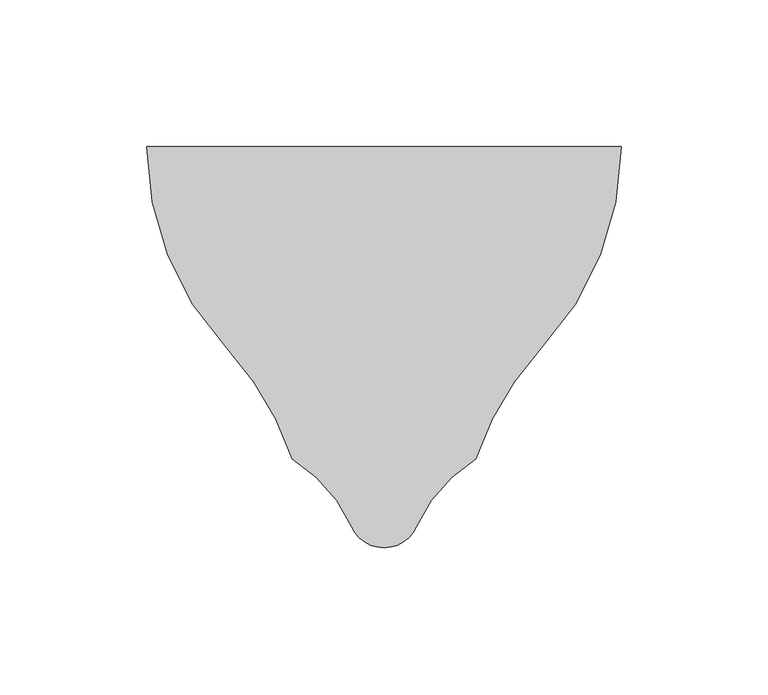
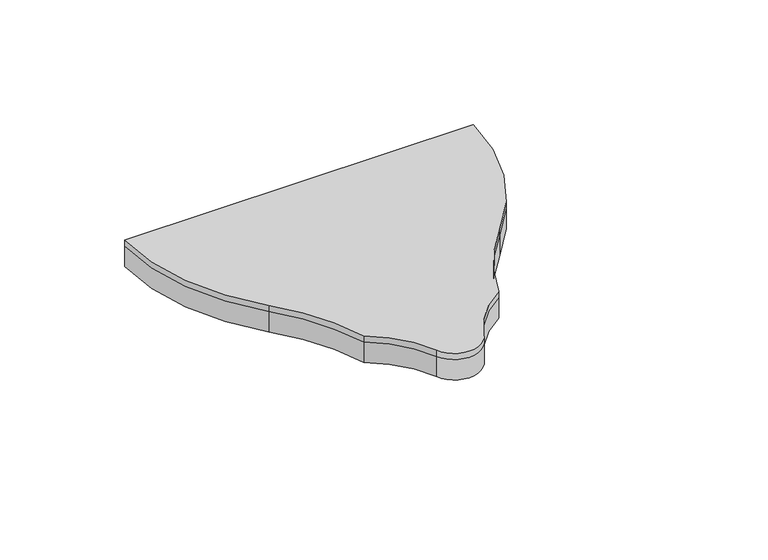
"""IFC4 building model written with IfcOpenShell, lengths in millimetres: proxy geometry, FilzFelt_Fish_Block : Fish Block."""

from ifc_helpers import new_model, si_unit, frame, origin, place, context, project, spatial, polyline, circle_curve, source, transform, mapped, element, save
from ifc_brep_helpers import plane_surface, cylinder_surface, revolved_surface, advanced_brep


def specialty_equipment_25086a34(model_context):
    return source(origin(), model_context, "Body", "AdvancedBrep", [
        advanced_brep(
        [(-53.5486457, -68.6120133, 10.0210937), (-80.7142226, 0.0, 10.0210937), (80.7142226, 0.0, 10.0210937), (53.5486457, -68.6120133, 10.0210937), (31.2619065, -106.3338576, 10.0210937), (11.0103348, -129.4133496, 10.0210937), (-11.0103348, -129.4133496, 10.0210937), (-31.2619065, -106.3338576, 10.0210937), (53.5486457, -68.6120133, 12.9976563), (80.7142226, 0.0, 12.9976563), (-80.7142226, 0.0, 12.9976563), (-53.5486457, -68.6120133, 12.9976563), (-31.2619065, -106.3338576, 12.9976563), (-11.0103348, -129.4133496, 12.9976563), (0.0, -136.5838795, 12.9976563), (11.0103348, -129.4133496, 12.9976563), (31.2619065, -106.3338576, 12.9976563)],
        [
            (0, 1, circle_curve(frame((19.5151403, 0.0, 10.0210937), z_axis=(0.0, 0.0, -1.0), x_axis=(-1.0, 0.0, 0.0)), 100.2293629)),
            (1, 2),
            (2, 3, circle_curve(frame((-19.5151403, 0.0, 10.0210937), z_axis=(0.0, 0.0, -1.0), x_axis=(-1.0, 0.0, 0.0)), 100.2293629)),
            (3, 4, circle_curve(frame((126.6124317, -137.2240266, 10.0210937), z_axis=(0.0, 0.0, 1.0), x_axis=(-1.0, 0.0, 0.0)), 100.2293629)),
            (4, 5, circle_curve(frame((57.9263497, -150.1559416, 10.0210937), z_axis=(0.0, 0.0, 1.0), x_axis=(-1.0, 0.0, 0.0)), 51.2968574)),
            (5, 6, circle_curve(frame((0.0, -124.5454408, 10.0210937), z_axis=(0.0, 0.0, -1.0), x_axis=(-1.0, 0.0, 0.0)), 12.0384388)),
            (6, 7, circle_curve(frame((-57.9263497, -150.1559416, 10.0210937), z_axis=(0.0, 0.0, 1.0), x_axis=(-1.0, 0.0, 0.0)), 51.2968574)),
            (7, 0, circle_curve(frame((-126.6124317, -137.2240266, 10.0210937), z_axis=(0.0, 0.0, 1.0), x_axis=(-1.0, 0.0, 0.0)), 100.2293629)),
            (8, 9, circle_curve(frame((-19.5151403, 0.0, 12.9976563), z_axis=(0.0, 0.0, 1.0), x_axis=(-1.0, 0.0, 0.0)), 100.2293629)),
            (9, 10),
            (10, 11, circle_curve(frame((19.5151403, 0.0, 12.9976563), z_axis=(0.0, 0.0, 1.0), x_axis=(-1.0, 0.0, 0.0)), 100.2293629)),
            (11, 12, circle_curve(frame((-126.6124317, -137.2240266, 12.9976563), z_axis=(0.0, 0.0, -1.0), x_axis=(-1.0, 0.0, 0.0)), 100.2293629)),
            (12, 13, circle_curve(frame((-57.9263497, -150.1559416, 12.9976563), z_axis=(0.0, 0.0, -1.0), x_axis=(-1.0, 0.0, 0.0)), 51.2968574)),
            (13, 14, circle_curve(frame((0.0, -124.5454408, 12.9976563), z_axis=(0.0, 0.0, 1.0), x_axis=(-1.0, 0.0, 0.0)), 12.0384388)),
            (14, 15, circle_curve(frame((0.0, -124.5454408, 12.9976563), z_axis=(0.0, 0.0, 1.0), x_axis=(-1.0, 0.0, 0.0)), 12.0384388)),
            (15, 16, circle_curve(frame((57.9263497, -150.1559416, 12.9976563), z_axis=(0.0, 0.0, -1.0), x_axis=(-1.0, 0.0, 0.0)), 51.2968574)),
            (16, 8, circle_curve(frame((126.6124317, -137.2240266, 12.9976563), z_axis=(0.0, 0.0, -1.0), x_axis=(-1.0, 0.0, 0.0)), 100.2293629)),
            (2, 9),
            (8, 3),
            (10, 1),
            (0, 11),
            (7, 12),
            (6, 13),
            (5, 15),
            (4, 16),
        ],
        [
            plane_surface(frame((0.0, 0.0, 10.0210937), z_axis=(0.0, 0.0, -1.0), x_axis=(0.0, 1.0, 0.0))),
            plane_surface(frame((0.0, 0.0, 12.9976563), z_axis=(0.0, 0.0, 1.0), x_axis=(0.0, 1.0, 0.0))),
            cylinder_surface(frame((-19.5151403, 0.0, 10.0210937), z_axis=(0.0, 0.0, -1.0), x_axis=(-1.0, 0.0, 0.0)), 100.2293629),
            cylinder_surface(frame((19.5151403, 0.0, 10.0210937), z_axis=(0.0, 0.0, -1.0), x_axis=(-1.0, 0.0, 0.0)), 100.2293629),
            revolved_surface(polyline([(-226.84179460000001, -137.2240266, 12.9976563), (-226.84179460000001, -137.2240266, 10.0210937)]), (-126.6124317, -137.2240266, 10.0210937), (0.0, 0.0, 1.0)),
            revolved_surface(polyline([(-109.2232071, -150.1559416, 12.9976563), (-109.2232071, -150.1559416, 10.0210937)]), (-57.9263497, -150.1559416, 10.0210937), (0.0, 0.0, 1.0)),
            cylinder_surface(frame((0.0, -124.5454408, 10.0210937), z_axis=(0.0, 0.0, -1.0), x_axis=(-1.0, 0.0, 0.0)), 12.0384388),
            revolved_surface(polyline([(6.629492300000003, -150.1559416, 12.9976563), (6.629492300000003, -150.1559416, 10.0210937)]), (57.9263497, -150.1559416, 10.0210937), (0.0, 0.0, 1.0)),
            revolved_surface(polyline([(26.383068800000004, -137.2240266, 12.9976563), (26.383068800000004, -137.2240266, 10.0210937)]), (126.6124317, -137.2240266, 10.0210937), (0.0, 0.0, 1.0)),
            plane_surface(frame((112.4642226, 0.0, 12.9976562), z_axis=(0.0, 1.0, 0.0), x_axis=(0.0, 0.0, -1.0))),
        ],
        [
            (0, [[1, 2, 3, 4, 5, 6, 7, 8]]),
            (1, [[9, 10, 11, 12, 13, 14, 15, 16, 17]]),
            (2, [[-3, 18, -9, 19]]),
            (3, [[-11, 20, -1, 21]]),
            (4, [[22, -12, -21, -8]]),
            (5, [[23, -13, -22, -7]]),
            (6, [[24, -15, -14, -23, -6]]),
            (7, [[25, -16, -24, -5]]),
            (8, [[-19, -17, -25, -4]]),
            (9, [[-20, -10, -18, -2]]),
        ],
    ),
        advanced_brep(
        [(-53.5486457, -68.6120133, 0.0), (-80.7142226, 0.0, 0.0), (80.7142226, 0.0, 0.0), (53.5486457, -68.6120133, 0.0), (31.2619065, -106.3338576, 0.0), (11.0103348, -129.4133496, 0.0), (0.0, -136.5838795, 0.0), (-11.0103348, -129.4133496, 0.0), (-31.2619065, -106.3338576, 0.0), (53.5486457, -68.6120133, 10.0210937), (80.7142226, 0.0, 10.0210937), (-80.7142226, 0.0, 10.0210937), (-53.5486457, -68.6120133, 10.0210937), (-31.2619065, -106.3338576, 10.0210937), (-11.0103348, -129.4133496, 10.0210937), (11.0103348, -129.4133496, 10.0210937), (31.2619065, -106.3338576, 10.0210937)],
        [
            (0, 1, circle_curve(frame((19.5151403, 0.0, 0.0), z_axis=(0.0, 0.0, -1.0), x_axis=(-1.0, 0.0, 0.0)), 100.2293629)),
            (1, 2),
            (2, 3, circle_curve(frame((-19.5151403, 0.0, 0.0), z_axis=(0.0, 0.0, -1.0), x_axis=(-1.0, 0.0, 0.0)), 100.2293629)),
            (3, 4, circle_curve(frame((126.6124317, -137.2240266, 0.0), z_axis=(0.0, 0.0, 1.0), x_axis=(-1.0, 0.0, 0.0)), 100.2293629)),
            (4, 5, circle_curve(frame((57.9263497, -150.1559416, 0.0), z_axis=(0.0, 0.0, 1.0), x_axis=(-1.0, 0.0, 0.0)), 51.2968574)),
            (5, 6, circle_curve(frame((0.0, -124.5454408, 0.0), z_axis=(0.0, 0.0, -1.0), x_axis=(-1.0, 0.0, 0.0)), 12.0384388)),
            (6, 7, circle_curve(frame((0.0, -124.5454408, 0.0), z_axis=(0.0, 0.0, -1.0), x_axis=(-1.0, 0.0, 0.0)), 12.0384388)),
            (7, 8, circle_curve(frame((-57.9263497, -150.1559416, 0.0), z_axis=(0.0, 0.0, 1.0), x_axis=(-1.0, 0.0, 0.0)), 51.2968574)),
            (8, 0, circle_curve(frame((-126.6124317, -137.2240266, 0.0), z_axis=(0.0, 0.0, 1.0), x_axis=(-1.0, 0.0, 0.0)), 100.2293629)),
            (9, 10, circle_curve(frame((-19.5151403, 0.0, 10.0210937), z_axis=(0.0, 0.0, 1.0), x_axis=(-1.0, 0.0, 0.0)), 100.2293629)),
            (10, 11),
            (11, 12, circle_curve(frame((19.5151403, 0.0, 10.0210937), z_axis=(0.0, 0.0, 1.0), x_axis=(-1.0, 0.0, 0.0)), 100.2293629)),
            (12, 13, circle_curve(frame((-126.6124317, -137.2240266, 10.0210937), z_axis=(0.0, 0.0, -1.0), x_axis=(-1.0, 0.0, 0.0)), 100.2293629)),
            (13, 14, circle_curve(frame((-57.9263497, -150.1559416, 10.0210937), z_axis=(0.0, 0.0, -1.0), x_axis=(-1.0, 0.0, 0.0)), 51.2968574)),
            (14, 15, circle_curve(frame((0.0, -124.5454408, 10.0210937), z_axis=(0.0, 0.0, 1.0), x_axis=(-1.0, 0.0, 0.0)), 12.0384388)),
            (15, 16, circle_curve(frame((57.9263497, -150.1559416, 10.0210937), z_axis=(0.0, 0.0, -1.0), x_axis=(-1.0, 0.0, 0.0)), 51.2968574)),
            (16, 9, circle_curve(frame((126.6124317, -137.2240266, 10.0210937), z_axis=(0.0, 0.0, -1.0), x_axis=(-1.0, 0.0, 0.0)), 100.2293629)),
            (11, 1),
            (0, 12),
            (8, 13),
            (7, 14),
            (5, 15),
            (4, 16),
            (3, 9),
            (2, 10),
        ],
        [
            plane_surface(frame((0.0, 0.0, 0.0), z_axis=(0.0, 0.0, -1.0), x_axis=(0.0, 1.0, 0.0))),
            plane_surface(frame((0.0, 0.0, 10.0210937), z_axis=(0.0, 0.0, 1.0), x_axis=(0.0, 1.0, 0.0))),
            cylinder_surface(frame((19.5151403, 0.0, 0.0), z_axis=(0.0, 0.0, -1.0), x_axis=(-1.0, 0.0, 0.0)), 100.2293629),
            revolved_surface(polyline([(-226.84179460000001, -137.2240266, 10.0210937), (-226.84179460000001, -137.2240266, 0.0)]), (-126.6124317, -137.2240266, 0.0), (0.0, 0.0, 1.0)),
            revolved_surface(polyline([(-109.2232071, -150.1559416, 10.0210937), (-109.2232071, -150.1559416, 0.0)]), (-57.9263497, -150.1559416, 0.0), (0.0, 0.0, 1.0)),
            cylinder_surface(frame((0.0, -124.5454408, 0.0), z_axis=(0.0, 0.0, -1.0), x_axis=(-1.0, 0.0, 0.0)), 12.0384388),
            revolved_surface(polyline([(6.629492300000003, -150.1559416, 10.0210937), (6.629492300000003, -150.1559416, 0.0)]), (57.9263497, -150.1559416, 0.0), (0.0, 0.0, 1.0)),
            revolved_surface(polyline([(26.383068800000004, -137.2240266, 10.0210937), (26.383068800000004, -137.2240266, 0.0)]), (126.6124317, -137.2240266, 0.0), (0.0, 0.0, 1.0)),
            cylinder_surface(frame((-19.5151403, 0.0, 0.0), z_axis=(0.0, 0.0, -1.0), x_axis=(-1.0, 0.0, 0.0)), 100.2293629),
            plane_surface(frame((112.4642226, 0.0, 12.9976562), z_axis=(0.0, 1.0, 0.0), x_axis=(0.0, 0.0, -1.0))),
        ],
        [
            (0, [[1, 2, 3, 4, 5, 6, 7, 8, 9]]),
            (1, [[10, 11, 12, 13, 14, 15, 16, 17]]),
            (2, [[-12, 18, -1, 19]]),
            (3, [[20, -13, -19, -9]]),
            (4, [[21, -14, -20, -8]]),
            (5, [[-21, -7, -6, 22, -15]]),
            (6, [[23, -16, -22, -5]]),
            (7, [[24, -17, -23, -4]]),
            (8, [[-3, 25, -10, -24]]),
            (9, [[-18, -11, -25, -2]]),
        ],
    ),
    ])


if __name__ == "__main__":
    model = new_model("IFC4")
    model_context = context("Model", 3, world=origin())
    ifc_project = project(units=[si_unit("LENGTHUNIT", "METRE", prefix="MILLI")], contexts=[model_context])
    site = spatial("IfcSite", under=ifc_project)
    building = spatial("IfcBuilding", under=site)
    placement = place(None, origin())
    specialty_equipment_shape = specialty_equipment_25086a34(model_context)
    element("IfcBuildingElementProxy", 1, Name="FilzFelt_Fish_Block : Fish Block", ObjectType="FilzFelt_Fish_Block : Fish Block", at=placement, inside=building, context=model_context, shape_type="MappedRepresentation", body=[
        mapped(specialty_equipment_shape, transform((0.0, 0.0, 0.0), x_axis=(1.0, 0.0, 0.0), y_axis=(0.0, 1.0, 0.0), z_axis=(0.0, 0.0, 1.0))),
    ])
    save(model, "model.ifc")
